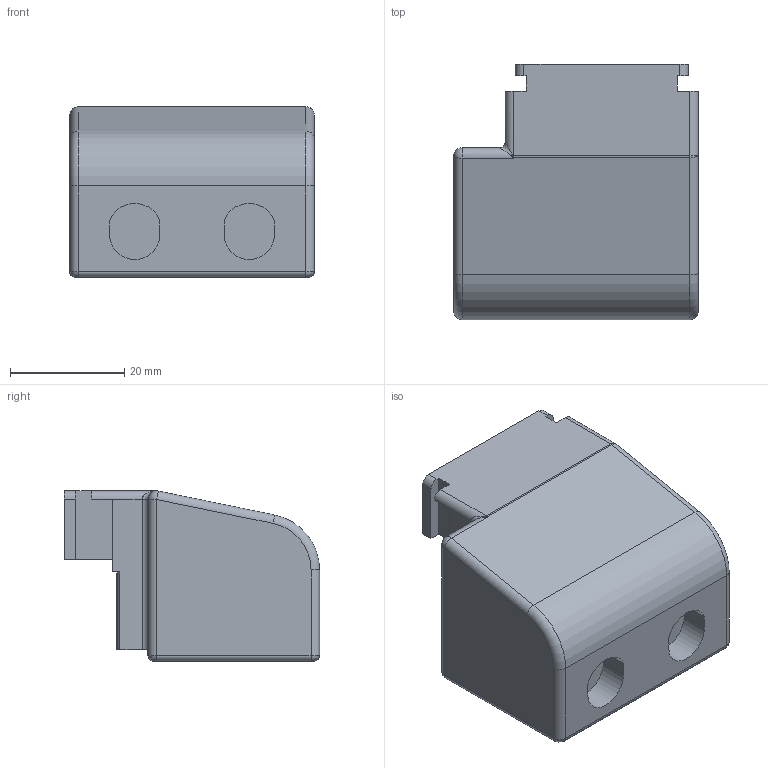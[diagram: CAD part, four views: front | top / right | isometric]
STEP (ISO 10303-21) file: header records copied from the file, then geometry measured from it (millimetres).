
FILE_DESCRIPTION((''),'2;1');
FILE_NAME('DEWI_SR-STD_DMEC_ASSY_150','2015-12-16T',('emanuel.wild'),(''),'PRO/ENGINEER BY PARAMETRIC TECHNOLOGY CORPORATION, 2015200','PRO/ENGINEER BY PARAMETRIC TECHNOLOGY CORPORATION, 2015200','');
FILE_SCHEMA(('AUTOMOTIVE_DESIGN { 1 0 10303 214 1 1 1 1 }'));
Length unit declared in the file: millimetre
Products named in the file (2): DEWI_SR-STD_DMEC; DEWI_SR-STD_DMEC_ASSY_150
Assembly tree (1 placements, depth 2):
  DEWI_SR-STD_DMEC_ASSY_150
    DEWI_SR-STD_DMEC
Bounding box: 42.8 x 44.6 x 29.8 mm (x, y, z)
Volume: 33204.2 mm3; surface area: 9471.8 mm2
Topology: 1 solids, 1 shells, 98 faces, 252 edges, 158 vertices
Faces by surface type: plane 56, cylinder 29, bspline 6, sphere 4, torus 3
Entity records: 3835 total; most frequent: CARTESIAN_POINT 768, ORIENTED_EDGE 504, DIRECTION 502, EDGE_CURVE 252, VECTOR 180, LINE 180, AXIS2_PLACEMENT_3D 161, VERTEX_POINT 158
